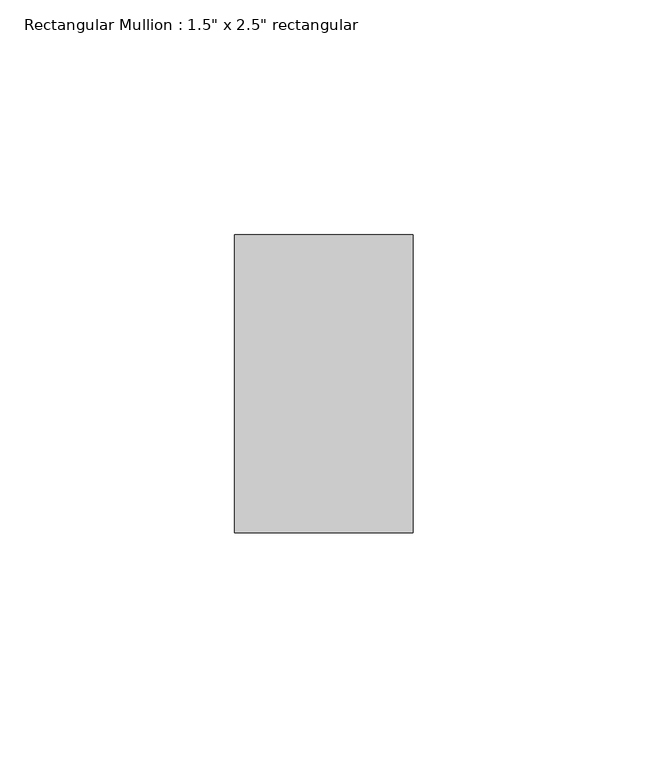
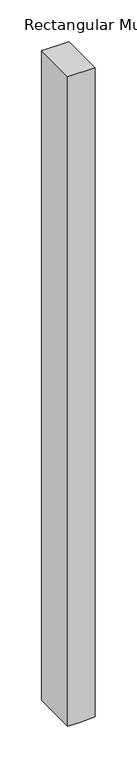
"""IFC4 building model written with IfcOpenShell, lengths in millimetres: member geometry."""

from ifc_helpers import new_model, si_unit, frame, origin, place, context, project, spatial, polyline, outline, extrude, source, transform, mapped, element, save


def member_05617f10(model_context):
    return source(origin(), model_context, "Body", "SweptSolid", [
        extrude(outline(polyline([(0.0, 19.05), (0.0, -19.05), (-953.2724955, -19.05), (-953.2349809, -1.3776964), (-952.3915672, 19.05), (0.0, 19.05)])), frame((0.0, -31.75, 0.0), z_axis=(0.0, 1.0, 0.0), x_axis=(0.0, 0.0, 1.0)), (0.0, 0.0, 1.0), 63.5),
    ])


if __name__ == "__main__":
    model = new_model("IFC4")
    model_context = context("Model", 3, world=origin())
    ifc_project = project(units=[si_unit("LENGTHUNIT", "METRE", prefix="MILLI")], contexts=[model_context])
    site = spatial("IfcSite", under=ifc_project)
    building = spatial("IfcBuilding", under=site)
    placement = place(None, origin())
    member_shape = member_05617f10(model_context)
    element("IfcMember", 1, ObjectType="Rectangular Mullion : 1.5\" x 2.5\" rectangular", at=placement, inside=building, context=model_context, shape_type="MappedRepresentation", body=[
        mapped(member_shape, transform((0.0, 0.0, 0.0), x_axis=(1.0, 0.0, 0.0), y_axis=(0.0, 1.0, 0.0), z_axis=(0.0, 0.0, 1.0))),
    ])
    save(model, "model.ifc")
